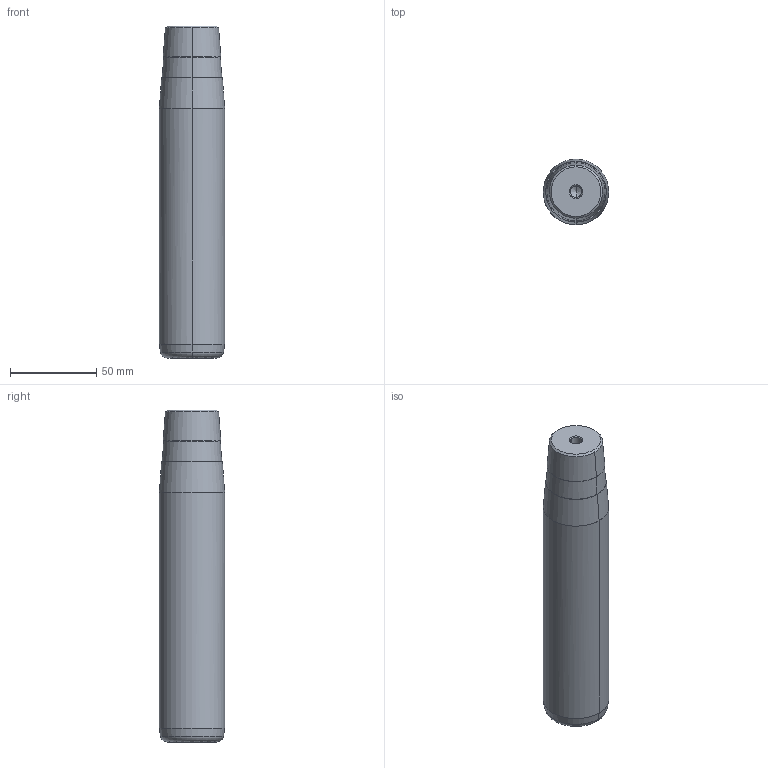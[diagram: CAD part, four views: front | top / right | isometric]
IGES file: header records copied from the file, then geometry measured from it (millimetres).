
Start section: START RECORD GO HERE.
Global section: file name: 722-38x160x193.igs; native system: DASSAULT SYSTEMES CATIA V5 R20 - www.3ds.com; preprocessor: CATIA Version 5 Release 20 ; author: Utente; organization: NB04-ASUS; date: 20210108.170506; units: millimetre
Bounding box: 38 x 38 x 193 mm (x, y, z)
Surface area: 25167.9 mm2 (no closed solid volume)
Topology: 0 solids, 0 shells, 32 faces, 192 edges, 188 vertices
Faces by surface type: revolution 30, plane 2
